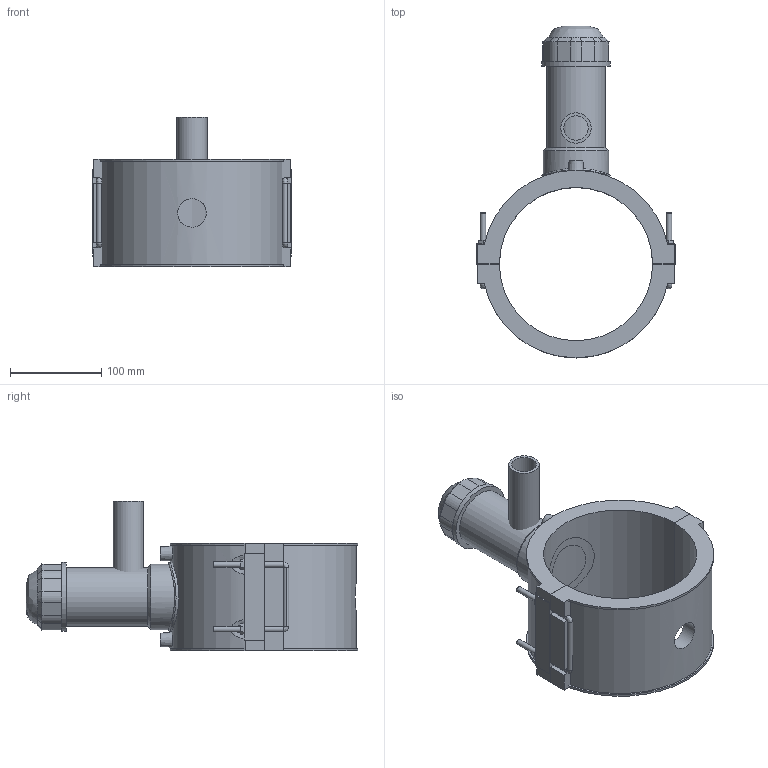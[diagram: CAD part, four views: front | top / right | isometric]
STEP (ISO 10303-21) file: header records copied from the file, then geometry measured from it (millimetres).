
FILE_DESCRIPTION(/* description */ ('PLASSON TAPPING SADDLE 6''''IPS x 1''''IPS'),/* implementation_level */ '2;1');
FILE_NAME(/* name */ 'C:\Dropbox\KIMPROJECTS-Inventor 2019\99-16-3568-Processing Inch\ASTM ElectroFusion 2021\5963BBP_5963BUP\5963BBP3060010.ipt.stp',/* time_stamp */ '2021-08-30T09:57:17+03:00',/* author */ ('KIM'),/* organization */ (''),/* preprocessor_version */ 'ST-DEVELOPER v17.2',/* originating_system */ 'Autodesk Inventor 2019',/* authorisation */ '');
FILE_SCHEMA (('AUTOMOTIVE_DESIGN { 1 0 10303 214 3 1 1 }','FEATURE_BASED_PROCESS_PLANNING'));
Length unit declared in the file: inch
Products named in the file (1): 5963BBP3060010
Bounding box: 217.9 x 363.85 x 163.96 mm (x, y, z)
Volume: 1621087.9 mm3; surface area: 277841.7 mm2
Topology: 3 solids, 3 shells, 187 faces, 489 edges, 313 vertices
Faces by surface type: plane 115, cylinder 47, cone 15, bspline 10
Full cylindrical faces by diameter (mm): 4 x2, 6 x8, 10 x2, 26.64 x1, 31.36 x1, 33.3 x1, 52.92 x1, 64.26 x1, 71.82 x1, 75.6 x2
Entity records: 6744 total; most frequent: CARTESIAN_POINT 2109, ORIENTED_EDGE 962, DIRECTION 932, EDGE_CURVE 481, AXIS2_PLACEMENT_3D 315, VERTEX_POINT 313, LINE 302, VECTOR 302
